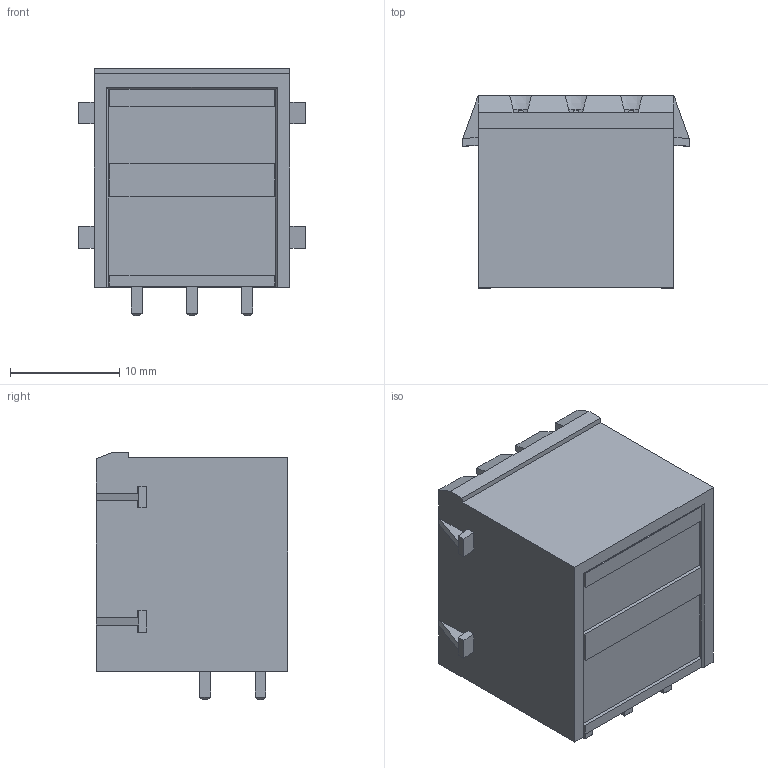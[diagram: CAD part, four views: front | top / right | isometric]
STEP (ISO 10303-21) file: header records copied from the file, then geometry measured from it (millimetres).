
FILE_DESCRIPTION((''),'2;1');
FILE_NAME('333','2019-04-15T',('zhenbing.lai'),(''),'CREO PARAMETRIC BY PTC INC, 2016260','CREO PARAMETRIC BY PTC INC, 2016260','');
FILE_SCHEMA(('CONFIG_CONTROL_DESIGN'));
Length unit declared in the file: millimetre
Products named in the file (1): 333
Bounding box: 20.76 x 17.6 x 22.7 mm (x, y, z)
Volume: 4481.1 mm3; surface area: 3366.7 mm2
Topology: 1 solids, 1 shells, 388 faces, 1058 edges, 676 vertices
Faces by surface type: plane 335, cylinder 41, cone 12
Entity records: 12202 total; most frequent: CARTESIAN_POINT 2398, ORIENTED_EDGE 2116, DIRECTION 1888, EDGE_CURVE 1058, VECTOR 900, LINE 900, VERTEX_POINT 676, AXIS2_PLACEMENT_3D 494
